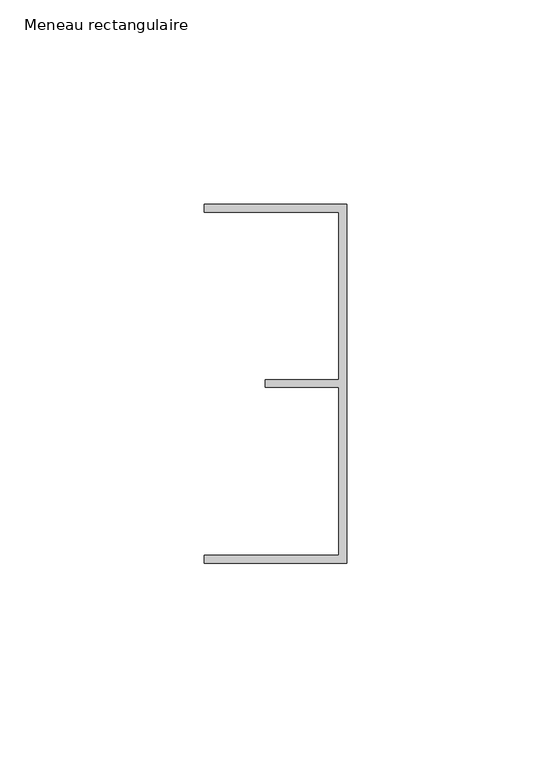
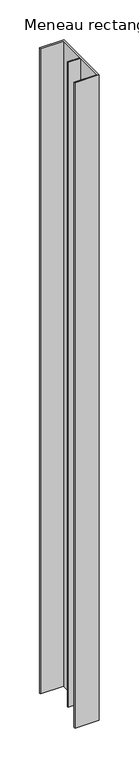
"""IFC4 building model written with IfcOpenShell, lengths in millimetres: member geometry, Meneau rectangulaire : LISSERIE_PLAFOND_COIFFANTE 94-KLP00-P80-SD20ALU."""

from ifc_helpers import new_model, si_unit, frame, origin, place, context, project, spatial, polyline, outline, extrude, source, transform, mapped, element, save


def meneau_rectangulaire_69d5cee0(model_context):
    return source(origin(), model_context, "Body", "SweptSolid", [
        extrude(outline(polyline([(0.0, 44.0), (0.0, -44.0), (-35.0, -44.0), (-35.0, -42.0), (-2.0, -42.0), (-2.0, -0.9316478), (-20.0, -0.9316478), (-20.0, 0.9316478), (-2.0, 0.9316478), (-2.0, 42.0), (-35.0, 42.0), (-35.0, 44.0), (0.0, 44.0)])), frame((0.0, 0.0, -985.0), z_axis=(0.0, 0.0, 1.0), x_axis=(1.0, 0.0, 0.0)), (0.0, 0.0, 1.0), 985.0),
    ])


if __name__ == "__main__":
    model = new_model("IFC4")
    model_context = context("Model", 3, world=origin())
    ifc_project = project(units=[si_unit("LENGTHUNIT", "METRE", prefix="MILLI")], contexts=[model_context])
    site = spatial("IfcSite", under=ifc_project)
    building = spatial("IfcBuilding", under=site)
    placement = place(None, origin())
    meneau_rectangulaire_shape = meneau_rectangulaire_69d5cee0(model_context)
    element("IfcMember", 1, ObjectType="Meneau rectangulaire : LISSERIE_PLAFOND_COIFFANTE 94-KLP00-P80-SD20ALU", at=placement, inside=building, context=model_context, shape_type="MappedRepresentation", body=[
        mapped(meneau_rectangulaire_shape, transform((0.0, 0.0, 0.0), x_axis=(1.0, 0.0, 0.0), y_axis=(0.0, 1.0, 0.0), z_axis=(0.0, 0.0, 1.0))),
    ])
    save(model, "model.ifc")
